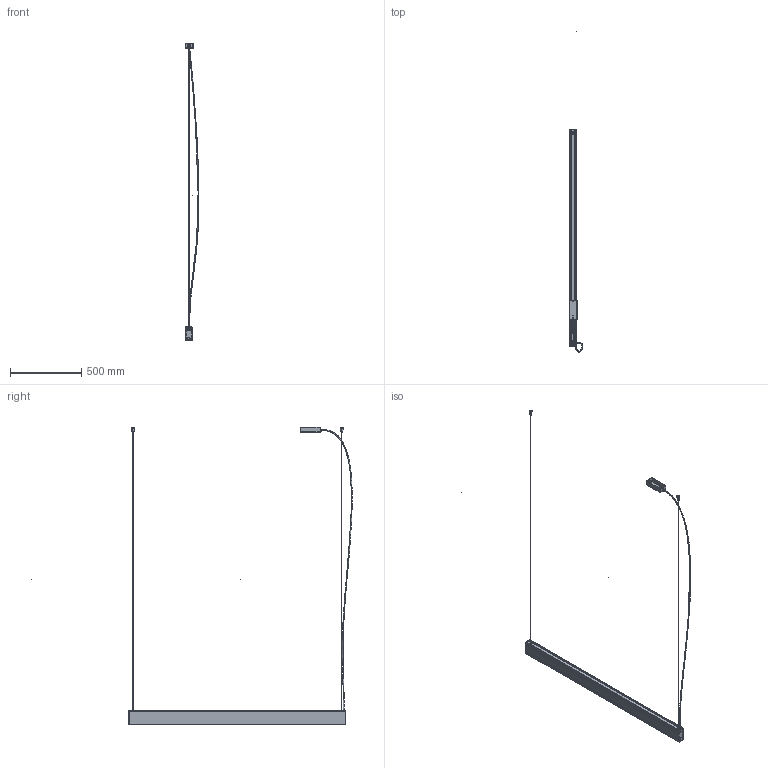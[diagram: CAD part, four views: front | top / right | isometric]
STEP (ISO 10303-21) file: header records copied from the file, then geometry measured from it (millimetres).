
FILE_DESCRIPTION(/* description */ (''),/* implementation_level */ '2;1');
FILE_NAME(/* name */ 'Giano L246__.150',/* time_stamp */ '2025-05-30T08:48:33+02:00',/* author */ (''),/* organization */ (''),/* preprocessor_version */ 'ST-DEVELOPER v16.5',/* originating_system */ '',/* authorisation */ '');
FILE_SCHEMA (('AUTOMOTIVE_DESIGN'));
Length unit declared in the file: millimetre
Products named in the file (21): Document; 3300.0012000.00 (profilo estruso ''A'' Giano ALL 40x97,8mm)_3304.
0012152.00; 3100.0008000.00 (schermo estruso Giplast 02PE50-A PC 30,4x8,1mm)_3101.
0008145.98; 3100.0008000.00 (schermo estruso Giplast 02PE50-A PC 30,4x8,1mm)_3101.
0008152.98; 3300.0013000.00 (profilo estruso ''B'' Giano ALL 10,57x97,8mm)_33
01.0013152.00; 3200.0066000.00 (testata di chiusura ACC 42,3x98,2mm sp 2 con molle)_
3210.0066000.00; 3200.0067000.00 (molla testata di chiusura ACC AISI 430 38,1x13,8x16,
4mm sp 0,8)_3209.0067002.00; 3200.0066001.00 (testata di chiusura ACC 42,3x98,2mm sp 2)_3201.00660
01.00; 3200.0067000.00 (molla testata di chiusura ACC AISI 430 38,1x13,8x16,
4mm sp 0,8)_3209.0067001.00; 3200.0068000.00 (piastrina per sospensione ACC 31,3x34,1mm sp 1)_3205.
0068002.00; 4504.0003000.00 (bloccacavo M10 maschio Steab 5100-7+grano EI M7 Stea
b 5408-4-10)_4504.0003001.00; 4504.0016000.00 (bloccacavo M10 maschio Steab 5100-7)_4504.0016001.00; 4504.0002000.00 (grano EI M7 Steab 5408-4-10)_4504.0002000.00; 5102.0003000.00 (dado esagonale zigrinato M10 H 4mm FE zincato)_5102.
0003000.00; 5402.0002000.00 (fune ACC 19 fili D 1,2mm con sfera terminale D 5mm)_
5402.0002200.00; 3200.0018000.00 (scatola rosone ACC 136,2x55,4x35mm sp 1,2)_3209.0018
000.00; socket button head screw_iso_ISO 7380 - M4 x 10 - 10N; 3300.0298000.00 (manicotto per sospensione singola ALL D 20mm H 32mm 
con foro M10x1)_3302.0298000.00; 5200.0002000.00 (dispositivo regolazione fune OTTONE nichelato con in
nesto maschio M10 L 14mm)_5200.0002000.00; 5500.0002000.00 (tappo per foro M10 PVC trasparente Steab 6301-10-01)
_5500.0002000.00; 3200.0068000.00 (piastrina per sospensione ACC 31,3x34,1mm sp 1)_3205.
0068001.00
Assembly tree (26 placements, depth 3):
  Document
    3300.0012000.00 (profilo estruso ''A'' Giano ALL 40x97,8mm)_3304.
0012152.00
    3100.0008000.00 (schermo estruso Giplast 02PE50-A PC 30,4x8,1mm)_3101.
0008145.98
    3100.0008000.00 (schermo estruso Giplast 02PE50-A PC 30,4x8,1mm)_3101.
0008152.98
    3300.0013000.00 (profilo estruso ''B'' Giano ALL 10,57x97,8mm)_33
01.0013152.00
    3200.0066000.00 (testata di chiusura ACC 42,3x98,2mm sp 2 con molle)_
3210.0066000.00  x2
      3200.0067000.00 (molla testata di chiusura ACC AISI 430 38,1x13,8x16,
4mm sp 0,8)_3209.0067002.00
      3200.0066001.00 (testata di chiusura ACC 42,3x98,2mm sp 2)_3201.00660
01.00
      3200.0067000.00 (molla testata di chiusura ACC AISI 430 38,1x13,8x16,
4mm sp 0,8)_3209.0067001.00
    3200.0068000.00 (piastrina per sospensione ACC 31,3x34,1mm sp 1)_3205.
0068002.00
    4504.0003000.00 (bloccacavo M10 maschio Steab 5100-7+grano EI M7 Stea
b 5408-4-10)_4504.0003001.00  x2
      4504.0016000.00 (bloccacavo M10 maschio Steab 5100-7)_4504.0016001.00
      4504.0002000.00 (grano EI M7 Steab 5408-4-10)_4504.0002000.00
    5102.0003000.00 (dado esagonale zigrinato M10 H 4mm FE zincato)_5102.
0003000.00
    5402.0002000.00 (fune ACC 19 fili D 1,2mm con sfera terminale D 5mm)_
5402.0002200.00  x2
    3200.0018000.00 (scatola rosone ACC 136,2x55,4x35mm sp 1,2)_3209.0018
000.00
    socket button head screw_iso_ISO 7380 - M4 x 10 - 10N  x2
    3300.0298000.00 (manicotto per sospensione singola ALL D 20mm H 32mm 
con foro M10x1)_3302.0298000.00  x2
    5200.0002000.00 (dispositivo regolazione fune OTTONE nichelato con in
nesto maschio M10 L 14mm)_5200.0002000.00  x2
    5500.0002000.00 (tappo per foro M10 PVC trasparente Steab 6301-10-01)
_5500.0002000.00
    3200.0068000.00 (piastrina per sospensione ACC 31,3x34,1mm sp 1)_3205.
0068001.00
Bounding box: 95.97 x 2245.03 x 2086.77 mm (x, y, z)
Volume: 1547191.9 mm3; surface area: 1471018.3 mm2
Topology: 32 solids, 32 shells, 1309 faces, 3364 edges, 2085 vertices
Faces by surface type: bspline 672, plane 637
Entity records: 38645 total; most frequent: CARTESIAN_POINT 22693, ORIENTED_EDGE 4968, EDGE_CURVE 2484, B_SPLINE_CURVE_WITH_KNOTS 1721, VERTEX_POINT 1572, EDGE_LOOP 996, ADVANCED_FACE 958, FACE_OUTER_BOUND 958
